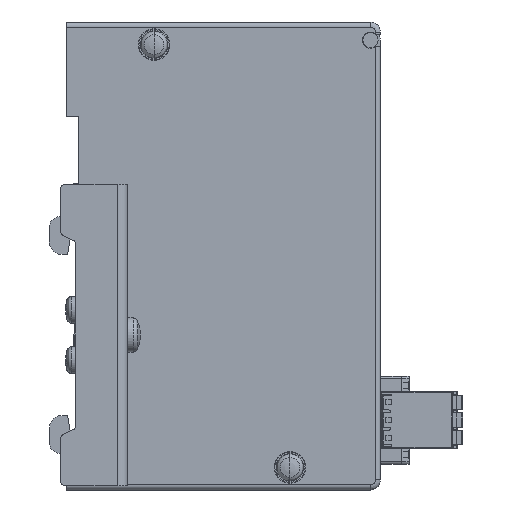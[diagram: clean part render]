
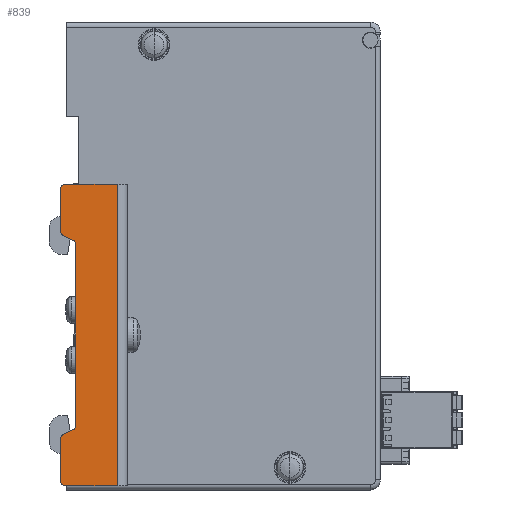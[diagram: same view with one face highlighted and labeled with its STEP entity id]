
A CAD part, left-side view. The second image highlights one B-rep face of the part: STEP entity #839.
In plain terms, the highlighted planar face has unit normal (-1, 0, 0).
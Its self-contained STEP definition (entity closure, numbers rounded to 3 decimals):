
#839=ADVANCED_FACE('',(#8206),#8205,.T.);
#8205=PLANE('',#14052);
#8206=FACE_OUTER_BOUND('',#14053,.T.);
#14049=CARTESIAN_POINT('',(-13.,-3.37,-36.));
#14050=DIRECTION('',(-1.,0.,0.));
#14051=DIRECTION('',(0.,-1.,0.));
#14052=AXIS2_PLACEMENT_3D('',#14049,#14050,#14051);
#14053=EDGE_LOOP('',(#18589,#18590,#18591,#18592,#18593,#18594,#18595,#18596,#18597,#18598,#18599,#18600,#18601,#18602));
#18589=ORIENTED_EDGE('',*,*,#21130,.F.);
#18590=ORIENTED_EDGE('',*,*,#21131,.T.);
#18591=ORIENTED_EDGE('',*,*,#21132,.T.);
#18592=ORIENTED_EDGE('',*,*,#21133,.T.);
#18593=ORIENTED_EDGE('',*,*,#21134,.F.);
#18594=ORIENTED_EDGE('',*,*,#21135,.T.);
#18595=ORIENTED_EDGE('',*,*,#21136,.T.);
#18596=ORIENTED_EDGE('',*,*,#21137,.T.);
#18597=ORIENTED_EDGE('',*,*,#21138,.T.);
#18598=ORIENTED_EDGE('',*,*,#21139,.T.);
#18599=ORIENTED_EDGE('',*,*,#21140,.T.);
#18600=ORIENTED_EDGE('',*,*,#21141,.F.);
#18601=ORIENTED_EDGE('',*,*,#21142,.T.);
#18602=ORIENTED_EDGE('',*,*,#21143,.F.);
#21130=EDGE_CURVE('',#33804,#33805,#33806,.T.);
#21131=EDGE_CURVE('',#33804,#33812,#33813,.T.);
#21132=EDGE_CURVE('',#33812,#33819,#33820,.T.);
#21133=EDGE_CURVE('',#33819,#33826,#33827,.T.);
#21134=EDGE_CURVE('',#33833,#33826,#33834,.T.);
#21135=EDGE_CURVE('',#33833,#33840,#33841,.T.);
#21136=EDGE_CURVE('',#33840,#33847,#33848,.T.);
#21137=EDGE_CURVE('',#33847,#33854,#33855,.T.);
#21138=EDGE_CURVE('',#33854,#33861,#33862,.T.);
#21139=EDGE_CURVE('',#33861,#33868,#33869,.T.);
#21140=EDGE_CURVE('',#33868,#33875,#33876,.T.);
#21141=EDGE_CURVE('',#33882,#33875,#33883,.T.);
#21142=EDGE_CURVE('',#33882,#33889,#33890,.T.);
#21143=EDGE_CURVE('',#33805,#33889,#33896,.T.);
#33804=VERTEX_POINT('',#43279);
#33805=VERTEX_POINT('',#43280);
#33806=LINE('',#43281,#43282);
#33812=VERTEX_POINT('',#43284);
#33813=CIRCLE('',#43288,1.);
#33819=VERTEX_POINT('',#43289);
#33820=LINE('',#43290,#43291);
#33826=VERTEX_POINT('',#43293);
#33827=CIRCLE('',#43297,1.);
#33833=VERTEX_POINT('',#43298);
#33834=LINE('',#43299,#43300);
#33840=VERTEX_POINT('',#43302);
#33841=LINE('',#43303,#43304);
#33847=VERTEX_POINT('',#43306);
#33848=LINE('',#43307,#43308);
#33854=VERTEX_POINT('',#43310);
#33855=CIRCLE('',#43314,1.);
#33861=VERTEX_POINT('',#43315);
#33862=LINE('',#43316,#43317);
#33868=VERTEX_POINT('',#43319);
#33869=CIRCLE('',#43323,1.);
#33875=VERTEX_POINT('',#43324);
#33876=LINE('',#43325,#43326);
#33882=VERTEX_POINT('',#43328);
#33883=CIRCLE('',#43332,1.);
#33889=VERTEX_POINT('',#43333);
#33890=LINE('',#43334,#43335);
#33896=CIRCLE('',#43340,1.);
#43279=CARTESIAN_POINT('',(-13.,-5.077,-19.73));
#43280=CARTESIAN_POINT('',(-13.,-6.923,-18.869));
#43281=CARTESIAN_POINT('',(-13.,-5.077,-19.73));
#43282=VECTOR('',#43283,2.036);
#43283=DIRECTION('',(0.,-0.906,0.423));
#43284=CARTESIAN_POINT('',(-13.,-4.5,-20.636));
#43285=CARTESIAN_POINT('',(-13.,-5.5,-20.636));
#43286=DIRECTION('',(-1.,0.,0.));
#43287=DIRECTION('',(0.,0.,1.));
#43288=AXIS2_PLACEMENT_3D('',#43285,#43286,#43287);
#43289=CARTESIAN_POINT('',(-13.,-4.5,-29.));
#43290=CARTESIAN_POINT('',(-13.,-4.5,-20.636));
#43291=VECTOR('',#43292,8.364);
#43292=DIRECTION('',(0.,0.,-1.));
#43293=CARTESIAN_POINT('',(-13.,-5.5,-30.));
#43294=CARTESIAN_POINT('',(-13.,-5.5,-29.));
#43295=DIRECTION('',(-1.,0.,0.));
#43296=DIRECTION('',(0.,0.,1.));
#43297=AXIS2_PLACEMENT_3D('',#43294,#43295,#43296);
#43298=CARTESIAN_POINT('',(-13.,-15.8,-30.));
#43299=CARTESIAN_POINT('',(-13.,-15.8,-30.));
#43300=VECTOR('',#43301,10.3);
#43301=DIRECTION('',(0.,1.,0.));
#43302=CARTESIAN_POINT('',(-13.,-15.8,30.));
#43303=CARTESIAN_POINT('',(-13.,-15.8,-30.));
#43304=VECTOR('',#43305,60.);
#43305=DIRECTION('',(0.,0.,1.));
#43306=CARTESIAN_POINT('',(-13.,-5.5,30.));
#43307=CARTESIAN_POINT('',(-13.,-15.8,30.));
#43308=VECTOR('',#43309,10.3);
#43309=DIRECTION('',(0.,1.,0.));
#43310=CARTESIAN_POINT('',(-13.,-4.5,29.));
#43311=CARTESIAN_POINT('',(-13.,-5.5,29.));
#43312=DIRECTION('',(-1.,0.,0.));
#43313=DIRECTION('',(0.,0.,1.));
#43314=AXIS2_PLACEMENT_3D('',#43311,#43312,#43313);
#43315=CARTESIAN_POINT('',(-13.,-4.5,20.636));
#43316=CARTESIAN_POINT('',(-13.,-4.5,29.));
#43317=VECTOR('',#43318,8.364);
#43318=DIRECTION('',(0.,0.,-1.));
#43319=CARTESIAN_POINT('',(-13.,-5.077,19.73));
#43320=CARTESIAN_POINT('',(-13.,-5.5,20.636));
#43321=DIRECTION('',(-1.,0.,0.));
#43322=DIRECTION('',(0.,0.,1.));
#43323=AXIS2_PLACEMENT_3D('',#43320,#43321,#43322);
#43324=CARTESIAN_POINT('',(-13.,-6.923,18.869));
#43325=CARTESIAN_POINT('',(-13.,-5.077,19.73));
#43326=VECTOR('',#43327,2.036);
#43327=DIRECTION('',(0.,-0.906,-0.423));
#43328=CARTESIAN_POINT('',(-13.,-7.5,17.963));
#43329=CARTESIAN_POINT('',(-13.,-6.5,17.963));
#43330=DIRECTION('',(-1.,0.,0.));
#43331=DIRECTION('',(0.,0.,1.));
#43332=AXIS2_PLACEMENT_3D('',#43329,#43330,#43331);
#43333=CARTESIAN_POINT('',(-13.,-7.5,-17.963));
#43334=CARTESIAN_POINT('',(-13.,-7.5,17.963));
#43335=VECTOR('',#43336,35.926);
#43336=DIRECTION('',(0.,0.,-1.));
#43337=CARTESIAN_POINT('',(-13.,-6.5,-17.963));
#43338=DIRECTION('',(-1.,0.,0.));
#43339=DIRECTION('',(0.,0.,1.));
#43340=AXIS2_PLACEMENT_3D('',#43337,#43338,#43339);
